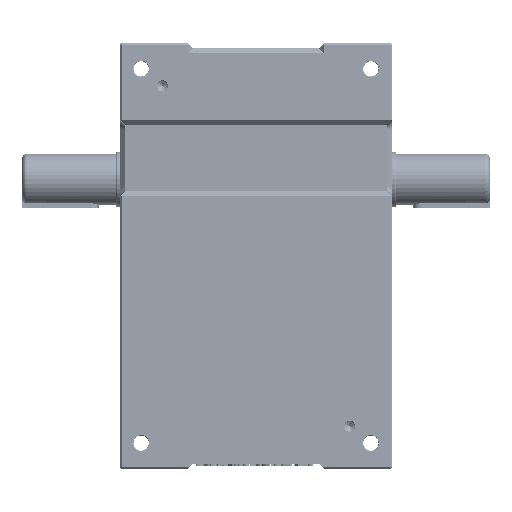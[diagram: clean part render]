
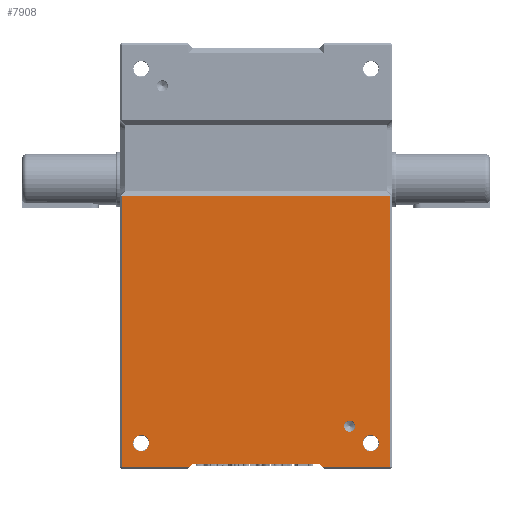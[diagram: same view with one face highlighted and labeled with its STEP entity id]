
A CAD part, front view. The second image highlights one B-rep face of the part: STEP entity #7908.
In plain terms, the highlighted planar face has unit normal (0, -1, 0).
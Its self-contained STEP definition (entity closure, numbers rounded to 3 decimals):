
#746 = DIRECTION ( 'NONE',  ( 0., 0., -1. ) ) ;
#988 = VERTEX_POINT ( 'NONE', #116205 ) ;
#1812 = DIRECTION ( 'NONE',  ( 0., 0., -1. ) ) ;
#1946 = FACE_BOUND ( 'NONE', #104334, .T. ) ;
#2195 = DIRECTION ( 'NONE',  ( 0., -1., 0. ) ) ;
#2213 = CARTESIAN_POINT ( 'NONE',  ( -135., -175., -220. ) ) ;
#2320 = EDGE_CURVE ( 'NONE', #110942, #104577, #90903, .T. ) ;
#2452 = VERTEX_POINT ( 'NONE', #110289 ) ;
#2760 = ORIENTED_EDGE ( 'NONE', *, *, #71532, .F. ) ;
#4293 = ORIENTED_EDGE ( 'NONE', *, *, #100783, .F. ) ;
#4524 = CIRCLE ( 'NONE', #12204, 6.5 ) ;
#5209 = LINE ( 'NONE', #53772, #30562 ) ;
#7806 = CIRCLE ( 'NONE', #65185, 6.5 ) ;
#7908 = ADVANCED_FACE ( 'NONE', ( #52656, #100097, #1946, #74832 ), #77315, .F. ) ;
#8303 = AXIS2_PLACEMENT_3D ( 'NONE', #54725, #121086, #64203 ) ;
#8898 = DIRECTION ( 'NONE',  ( 0., -1., 0. ) ) ;
#9247 = CARTESIAN_POINT ( 'NONE',  ( -158., -175., 0. ) ) ;
#9339 = CARTESIAN_POINT ( 'NONE',  ( 0., -175., 70. ) ) ;
#10039 = EDGE_CURVE ( 'NONE', #63154, #112124, #92481, .T. ) ;
#12098 = VECTOR ( 'NONE', #117059, 1000. ) ;
#12204 = AXIS2_PLACEMENT_3D ( 'NONE', #92849, #36046, #102457 ) ;
#13720 = CARTESIAN_POINT ( 'NONE',  ( 135., -175., -220. ) ) ;
#14289 = EDGE_CURVE ( 'NONE', #104577, #988, #65571, .T. ) ;
#14471 = LINE ( 'NONE', #92523, #118617 ) ;
#15975 = DIRECTION ( 'NONE',  ( 1., 0., 0. ) ) ;
#16006 = CARTESIAN_POINT ( 'NONE',  ( 144.5, -175., -220. ) ) ;
#16167 = EDGE_CURVE ( 'NONE', #56585, #116203, #35647, .T. ) ;
#16942 = CARTESIAN_POINT ( 'NONE',  ( 78., -175., -248. ) ) ;
#19937 = CARTESIAN_POINT ( 'NONE',  ( -144.5, -175., -220. ) ) ;
#19975 = CARTESIAN_POINT ( 'NONE',  ( 110., -175., -206.5 ) ) ;
#20167 = VERTEX_POINT ( 'NONE', #19975 ) ;
#23247 = DIRECTION ( 'NONE',  ( 1., 0., 0. ) ) ;
#25152 = CARTESIAN_POINT ( 'NONE',  ( 0., -175., -248. ) ) ;
#25836 = CARTESIAN_POINT ( 'NONE',  ( 158., -175., 70. ) ) ;
#26801 = ORIENTED_EDGE ( 'NONE', *, *, #81163, .F. ) ;
#27109 = CARTESIAN_POINT ( 'NONE',  ( -158., -175., -248. ) ) ;
#27300 = EDGE_CURVE ( 'NONE', #31573, #83305, #123261, .T. ) ;
#27614 = VECTOR ( 'NONE', #123190, 1000. ) ;
#27946 = VERTEX_POINT ( 'NONE', #83882 ) ;
#28051 = CARTESIAN_POINT ( 'NONE',  ( -74., -175., -244. ) ) ;
#28169 = ORIENTED_EDGE ( 'NONE', *, *, #106646, .F. ) ;
#29824 = VECTOR ( 'NONE', #94933, 1000. ) ;
#30562 = VECTOR ( 'NONE', #110533, 1000. ) ;
#31573 = VERTEX_POINT ( 'NONE', #61214 ) ;
#34806 = DIRECTION ( 'NONE',  ( -1., 0., 0. ) ) ;
#35166 = CARTESIAN_POINT ( 'NONE',  ( -158., -175., 70. ) ) ;
#35647 = LINE ( 'NONE', #9339, #111370 ) ;
#35721 = DIRECTION ( 'NONE',  ( 0., 0., -1. ) ) ;
#36046 = DIRECTION ( 'NONE',  ( 0., -1., 0. ) ) ;
#38988 = VERTEX_POINT ( 'NONE', #16006 ) ;
#39672 = LINE ( 'NONE', #9247, #27614 ) ;
#40076 = CIRCLE ( 'NONE', #113185, 9.5 ) ;
#44703 = CARTESIAN_POINT ( 'NONE',  ( -125.5, -175., -220. ) ) ;
#52515 = EDGE_LOOP ( 'NONE', ( #71458, #4293 ) ) ;
#52656 = FACE_BOUND ( 'NONE', #52515, .T. ) ;
#53772 = CARTESIAN_POINT ( 'NONE',  ( 0., -175., -244. ) ) ;
#54725 = CARTESIAN_POINT ( 'NONE',  ( 135., -175., -220. ) ) ;
#56585 = VERTEX_POINT ( 'NONE', #35166 ) ;
#57839 = DIRECTION ( 'NONE',  ( 0., -1., 0. ) ) ;
#58200 = LINE ( 'NONE', #28051, #29824 ) ;
#58928 = ORIENTED_EDGE ( 'NONE', *, *, #27300, .F. ) ;
#59286 = ORIENTED_EDGE ( 'NONE', *, *, #96012, .F. ) ;
#60612 = CARTESIAN_POINT ( 'NONE',  ( 158., -175., -248. ) ) ;
#61214 = CARTESIAN_POINT ( 'NONE',  ( -78., -175., -248. ) ) ;
#63154 = VERTEX_POINT ( 'NONE', #19937 ) ;
#64203 = DIRECTION ( 'NONE',  ( 1., 0., 0. ) ) ;
#65185 = AXIS2_PLACEMENT_3D ( 'NONE', #114628, #57839, #746 ) ;
#65571 = LINE ( 'NONE', #113755, #116030 ) ;
#65913 = CARTESIAN_POINT ( 'NONE',  ( -135., -175., -220. ) ) ;
#67058 = EDGE_CURVE ( 'NONE', #2452, #38988, #86440, .T. ) ;
#67730 = ORIENTED_EDGE ( 'NONE', *, *, #2320, .F. ) ;
#67859 = ORIENTED_EDGE ( 'NONE', *, *, #16167, .F. ) ;
#68321 = EDGE_CURVE ( 'NONE', #27946, #31573, #58200, .T. ) ;
#69434 = EDGE_LOOP ( 'NONE', ( #58928, #69660, #112989, #112628, #67730, #2760, #67859, #26801 ) ) ;
#69449 = CARTESIAN_POINT ( 'NONE',  ( 110., -175., -193.5 ) ) ;
#69660 = ORIENTED_EDGE ( 'NONE', *, *, #68321, .F. ) ;
#71458 = ORIENTED_EDGE ( 'NONE', *, *, #87384, .F. ) ;
#71459 = AXIS2_PLACEMENT_3D ( 'NONE', #78682, #77171, #76892 ) ;
#71532 = EDGE_CURVE ( 'NONE', #116203, #110942, #14471, .T. ) ;
#72508 = VERTEX_POINT ( 'NONE', #69449 ) ;
#72573 = VECTOR ( 'NONE', #34806, 1000. ) ;
#74832 = FACE_OUTER_BOUND ( 'NONE', #69434, .T. ) ;
#75358 = DIRECTION ( 'NONE',  ( 0., 0., -1. ) ) ;
#76892 = DIRECTION ( 'NONE',  ( 0., 0., 1. ) ) ;
#76911 = EDGE_CURVE ( 'NONE', #988, #27946, #5209, .T. ) ;
#77171 = DIRECTION ( 'NONE',  ( 0., 1., 0. ) ) ;
#77315 = PLANE ( 'NONE',  #71459 ) ;
#78682 = CARTESIAN_POINT ( 'NONE',  ( 0., -175., 0. ) ) ;
#80226 = DIRECTION ( 'NONE',  ( 0., -1., 0. ) ) ;
#81163 = EDGE_CURVE ( 'NONE', #83305, #56585, #39672, .T. ) ;
#83305 = VERTEX_POINT ( 'NONE', #27109 ) ;
#83882 = CARTESIAN_POINT ( 'NONE',  ( -74., -175., -244. ) ) ;
#86440 = CIRCLE ( 'NONE', #110987, 9.5 ) ;
#87384 = EDGE_CURVE ( 'NONE', #20167, #72508, #4524, .T. ) ;
#90903 = LINE ( 'NONE', #116812, #12098 ) ;
#92481 = CIRCLE ( 'NONE', #100104, 9.5 ) ;
#92523 = CARTESIAN_POINT ( 'NONE',  ( 158., -175., 0. ) ) ;
#92849 = CARTESIAN_POINT ( 'NONE',  ( 110., -175., -200. ) ) ;
#94933 = DIRECTION ( 'NONE',  ( -0.707, 0., -0.707 ) ) ;
#96012 = EDGE_CURVE ( 'NONE', #38988, #2452, #107933, .T. ) ;
#97497 = EDGE_LOOP ( 'NONE', ( #28169, #122618 ) ) ;
#100097 = FACE_BOUND ( 'NONE', #97497, .T. ) ;
#100104 = AXIS2_PLACEMENT_3D ( 'NONE', #2213, #2195, #1812 ) ;
#100783 = EDGE_CURVE ( 'NONE', #72508, #20167, #7806, .T. ) ;
#102268 = ORIENTED_EDGE ( 'NONE', *, *, #67058, .F. ) ;
#102457 = DIRECTION ( 'NONE',  ( 0., 0., -1. ) ) ;
#104334 = EDGE_LOOP ( 'NONE', ( #59286, #102268 ) ) ;
#104577 = VERTEX_POINT ( 'NONE', #16942 ) ;
#106646 = EDGE_CURVE ( 'NONE', #112124, #63154, #40076, .T. ) ;
#107933 = CIRCLE ( 'NONE', #8303, 9.5 ) ;
#110289 = CARTESIAN_POINT ( 'NONE',  ( 125.5, -175., -220. ) ) ;
#110533 = DIRECTION ( 'NONE',  ( -1., 0., 0. ) ) ;
#110942 = VERTEX_POINT ( 'NONE', #60612 ) ;
#110987 = AXIS2_PLACEMENT_3D ( 'NONE', #13720, #80226, #23247 ) ;
#111370 = VECTOR ( 'NONE', #15975, 1000. ) ;
#112124 = VERTEX_POINT ( 'NONE', #44703 ) ;
#112628 = ORIENTED_EDGE ( 'NONE', *, *, #14289, .F. ) ;
#112989 = ORIENTED_EDGE ( 'NONE', *, *, #76911, .F. ) ;
#113185 = AXIS2_PLACEMENT_3D ( 'NONE', #65913, #8898, #75358 ) ;
#113618 = DIRECTION ( 'NONE',  ( -0.707, 0., 0.707 ) ) ;
#113755 = CARTESIAN_POINT ( 'NONE',  ( 78., -175., -248. ) ) ;
#114628 = CARTESIAN_POINT ( 'NONE',  ( 110., -175., -200. ) ) ;
#116030 = VECTOR ( 'NONE', #113618, 1000. ) ;
#116203 = VERTEX_POINT ( 'NONE', #25836 ) ;
#116205 = CARTESIAN_POINT ( 'NONE',  ( 74., -175., -244. ) ) ;
#116812 = CARTESIAN_POINT ( 'NONE',  ( 0., -175., -248. ) ) ;
#117059 = DIRECTION ( 'NONE',  ( -1., 0., 0. ) ) ;
#118617 = VECTOR ( 'NONE', #35721, 1000. ) ;
#121086 = DIRECTION ( 'NONE',  ( 0., -1., 0. ) ) ;
#122618 = ORIENTED_EDGE ( 'NONE', *, *, #10039, .F. ) ;
#123190 = DIRECTION ( 'NONE',  ( 0., 0., 1. ) ) ;
#123261 = LINE ( 'NONE', #25152, #72573 ) ;
